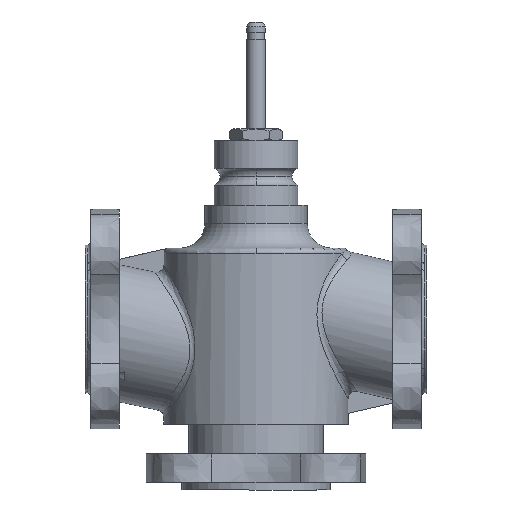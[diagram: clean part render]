
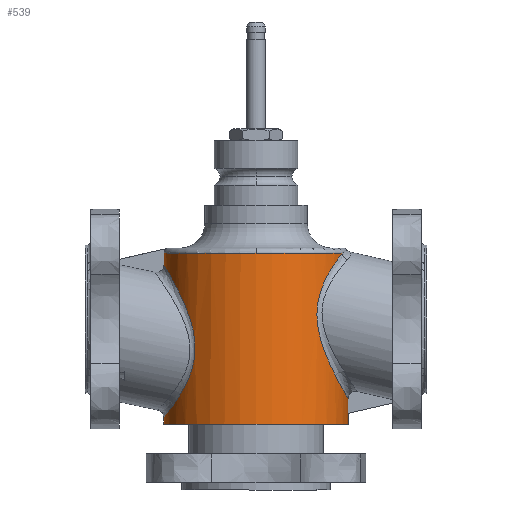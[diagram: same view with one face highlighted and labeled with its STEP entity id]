
A CAD part, left-side view. The second image highlights one B-rep face of the part: STEP entity #539.
In plain terms, the highlighted cylindrical face has radius 48.529 mm (diameter 97.059 mm), a partial arc.
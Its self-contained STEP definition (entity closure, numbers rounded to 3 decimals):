
#113=FACE_OUTER_BOUND('',#934,.T.);
#228=CYLINDRICAL_SURFACE('',#2627,48.529);
#275=ELLIPSE('',#2626,49.745,48.529);
#281=LINE('',#3736,#383);
#282=LINE('',#3740,#384);
#287=LINE('',#3833,#389);
#295=LINE('',#3992,#397);
#383=VECTOR('',#2892,1.);
#384=VECTOR('',#2895,1.);
#389=VECTOR('',#2910,1.);
#397=VECTOR('',#2944,1.);
#539=ADVANCED_FACE('',(#113),#228,.T.);
#750=B_SPLINE_CURVE_WITH_KNOTS('',3,(#3965,#3966,#3967,#3968,#3969,#3970,
#3971,#3972,#3973,#3974,#3975,#3976,#3977,#3978,#3979,#3980,#3981,#3982,
#3983,#3984,#3985,#3986,#3987,#3988),.UNSPECIFIED.,.F.,.F.,(4,2,2,2,2,2,
2,2,2,2,2,4),(0.,0.077,0.173,0.304,
0.444,0.518,0.591,0.682,
0.806,0.902,0.998,1.),.UNSPECIFIED.);
#751=B_SPLINE_CURVE_WITH_KNOTS('',3,(#3994,#3995,#3996,#3997,#3998,#3999,
#4000,#4001,#4002,#4003,#4004,#4005,#4006,#4007,#4008,#4009,#4010,#4011,
#4012,#4013),.UNSPECIFIED.,.F.,.F.,(4,2,2,2,2,2,2,2,2,4),(0.,0.126,
0.253,0.36,0.445,0.53,
0.633,0.756,0.953,1.),.UNSPECIFIED.);
#934=EDGE_LOOP('',(#1193,#1194,#1195,#1196,#1197,#1198,#1199,#1200,#1201,
#1202));
#1193=ORIENTED_EDGE('',*,*,#2157,.F.);
#1194=ORIENTED_EDGE('',*,*,#2158,.F.);
#1195=ORIENTED_EDGE('',*,*,#2138,.T.);
#1196=ORIENTED_EDGE('',*,*,#2159,.F.);
#1197=ORIENTED_EDGE('',*,*,#2125,.F.);
#1198=ORIENTED_EDGE('',*,*,#2160,.T.);
#1199=ORIENTED_EDGE('',*,*,#2123,.F.);
#1200=ORIENTED_EDGE('',*,*,#2161,.T.);
#1201=ORIENTED_EDGE('',*,*,#2162,.T.);
#1202=ORIENTED_EDGE('',*,*,#2163,.F.);
#1882=VERTEX_POINT('',#3735);
#1883=VERTEX_POINT('',#3737);
#1884=VERTEX_POINT('',#3739);
#1885=VERTEX_POINT('',#3741);
#1896=VERTEX_POINT('',#3832);
#1897=VERTEX_POINT('',#3834);
#1909=VERTEX_POINT('',#3962);
#1910=VERTEX_POINT('',#3963);
#1911=VERTEX_POINT('',#3991);
#1912=VERTEX_POINT('',#3993);
#2123=EDGE_CURVE('',#1882,#1883,#281,.T.);
#2125=EDGE_CURVE('',#1884,#1885,#282,.T.);
#2138=EDGE_CURVE('',#1897,#1896,#287,.T.);
#2157=EDGE_CURVE('',#1909,#1910,#2465,.T.);
#2158=EDGE_CURVE('',#1897,#1909,#2466,.T.);
#2159=EDGE_CURVE('',#1885,#1896,#750,.T.);
#2160=EDGE_CURVE('',#1884,#1883,#2467,.T.);
#2161=EDGE_CURVE('',#1882,#1911,#275,.T.);
#2162=EDGE_CURVE('',#1911,#1912,#295,.T.);
#2163=EDGE_CURVE('',#1910,#1912,#751,.T.);
#2465=CIRCLE('',#2623,48.529);
#2466=CIRCLE('',#2624,48.529);
#2467=CIRCLE('',#2625,48.529);
#2623=AXIS2_PLACEMENT_3D('',#3961,#2936,#2937);
#2624=AXIS2_PLACEMENT_3D('',#3964,#2938,#2939);
#2625=AXIS2_PLACEMENT_3D('',#3989,#2940,#2941);
#2626=AXIS2_PLACEMENT_3D('',#3990,#2942,#2943);
#2627=AXIS2_PLACEMENT_3D('',#4014,#2945,#2946);
#2892=DIRECTION('',(0.,0.,-1.));
#2895=DIRECTION('',(0.,0.,1.));
#2910=DIRECTION('',(0.,0.,-1.));
#2936=DIRECTION('',(0.,0.,1.));
#2937=DIRECTION('',(0.,-1.,0.));
#2938=DIRECTION('',(0.,0.,1.));
#2939=DIRECTION('',(0.,-1.,0.));
#2940=DIRECTION('',(0.,0.,1.));
#2941=DIRECTION('',(0.,1.,0.));
#2942=DIRECTION('',(0.,-0.22,-0.976));
#2943=DIRECTION('',(0.,0.976,-0.22));
#2944=DIRECTION('',(0.,0.,1.));
#2945=DIRECTION('',(0.,0.,1.));
#2946=DIRECTION('',(0.,-1.,0.));
#3735=CARTESIAN_POINT('',(0.,141.471,-49.547));
#3736=CARTESIAN_POINT('',(0.,141.471,-49.547));
#3737=CARTESIAN_POINT('',(0.,141.471,-55.467));
#3739=CARTESIAN_POINT('',(0.,238.529,-55.467));
#3740=CARTESIAN_POINT('',(0.,238.529,-55.467));
#3741=CARTESIAN_POINT('',(0.,238.529,-51.825));
#3832=CARTESIAN_POINT('',(-2.689,238.455,28.62));
#3833=CARTESIAN_POINT('',(-2.689,238.455,34.686));
#3834=CARTESIAN_POINT('',(-2.689,238.455,34.686));
#3961=CARTESIAN_POINT('',(0.,190.,34.686));
#3962=CARTESIAN_POINT('',(-48.529,190.,34.686));
#3963=CARTESIAN_POINT('',(-17.443,144.714,34.686));
#3964=CARTESIAN_POINT('',(0.,190.,34.686));
#3965=CARTESIAN_POINT('',(0.,238.529,-51.825));
#3966=CARTESIAN_POINT('',(-3.035,238.529,-51.825));
#3967=CARTESIAN_POINT('',(-6.078,238.239,-51.466));
#3968=CARTESIAN_POINT('',(-12.637,237.001,-49.895));
#3969=CARTESIAN_POINT('',(-16.127,235.896,-48.482));
#3970=CARTESIAN_POINT('',(-23.457,232.732,-44.154));
#3971=CARTESIAN_POINT('',(-27.112,230.408,-40.821));
#3972=CARTESIAN_POINT('',(-32.953,225.833,-32.526));
#3973=CARTESIAN_POINT('',(-35.101,223.536,-27.265));
#3974=CARTESIAN_POINT('',(-36.409,222.092,-18.341));
#3975=CARTESIAN_POINT('',(-36.505,221.978,-15.177));
#3976=CARTESIAN_POINT('',(-36.061,222.478,-8.913));
#3977=CARTESIAN_POINT('',(-35.534,223.07,-5.882));
#3978=CARTESIAN_POINT('',(-33.822,224.828,0.642));
#3979=CARTESIAN_POINT('',(-32.505,226.096,4.067));
#3980=CARTESIAN_POINT('',(-28.713,229.226,11.517));
#3981=CARTESIAN_POINT('',(-25.933,231.192,15.447));
#3982=CARTESIAN_POINT('',(-19.994,234.317,21.365));
#3983=CARTESIAN_POINT('',(-16.997,235.586,23.633));
#3984=CARTESIAN_POINT('',(-10.378,237.532,27.049));
#3985=CARTESIAN_POINT('',(-6.675,238.216,28.213));
#3986=CARTESIAN_POINT('',(-2.832,238.447,28.606));
#3987=CARTESIAN_POINT('',(-2.76,238.451,28.613));
#3988=CARTESIAN_POINT('',(-2.689,238.455,28.62));
#3989=CARTESIAN_POINT('',(0.,190.,-55.467));
#3990=CARTESIAN_POINT('',(0.,190.,-60.476));
#3991=CARTESIAN_POINT('',(-2.689,141.545,-49.564));
#3992=CARTESIAN_POINT('',(-2.689,141.545,-49.564));
#3993=CARTESIAN_POINT('',(-2.689,141.545,-41.975));
#3994=CARTESIAN_POINT('',(-17.448,144.72,34.683));
#3995=CARTESIAN_POINT('',(-21.047,146.113,32.845));
#3996=CARTESIAN_POINT('',(-24.277,147.853,30.44));
#3997=CARTESIAN_POINT('',(-29.728,151.501,24.655));
#3998=CARTESIAN_POINT('',(-31.999,153.447,21.195));
#3999=CARTESIAN_POINT('',(-34.949,156.279,14.021));
#4000=CARTESIAN_POINT('',(-35.855,157.292,10.314));
#4001=CARTESIAN_POINT('',(-36.496,158.01,3.491));
#4002=CARTESIAN_POINT('',(-36.444,157.951,0.344));
#4003=CARTESIAN_POINT('',(-35.778,157.208,-5.704));
#4004=CARTESIAN_POINT('',(-35.172,156.543,-8.639));
#4005=CARTESIAN_POINT('',(-33.351,154.718,-14.873));
#4006=CARTESIAN_POINT('',(-32.049,153.502,-18.078));
#4007=CARTESIAN_POINT('',(-28.556,150.686,-24.718));
#4008=CARTESIAN_POINT('',(-26.243,149.061,-28.055));
#4009=CARTESIAN_POINT('',(-19.208,145.16,-35.661));
#4010=CARTESIAN_POINT('',(-13.667,142.998,-39.441));
#4011=CARTESIAN_POINT('',(-5.825,141.797,-41.539));
#4012=CARTESIAN_POINT('',(-4.263,141.635,-41.821));
#4013=CARTESIAN_POINT('',(-2.688,141.547,-41.973));
#4014=CARTESIAN_POINT('',(0.,190.,-8.763));
